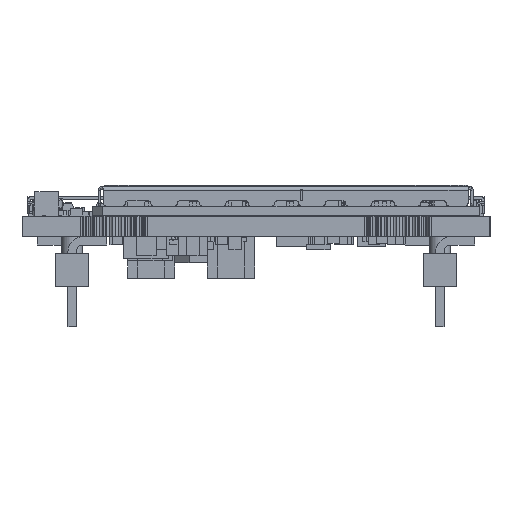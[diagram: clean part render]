
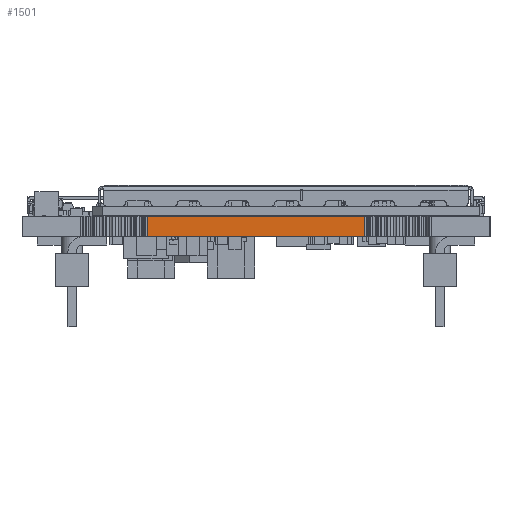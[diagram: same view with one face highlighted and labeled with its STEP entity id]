
A CAD part, left-side view. The second image highlights one B-rep face of the part: STEP entity #1501.
In plain terms, the highlighted planar face has unit normal (-1, 0, 0).
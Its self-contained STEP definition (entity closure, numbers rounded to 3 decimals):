
#1476 = VERTEX_POINT('',#1477);
#1477 = CARTESIAN_POINT('',(0.,9.525,1.551));
#1483 = EDGE_CURVE('',#1484,#1476,#1486,.T.);
#1484 = VERTEX_POINT('',#1485);
#1485 = CARTESIAN_POINT('',(0.,9.525,0.));
#1486 = LINE('',#1487,#1488);
#1487 = CARTESIAN_POINT('',(0.,9.525,0.));
#1488 = VECTOR('',#1489,1.);
#1489 = DIRECTION('',(0.,0.,1.));
#1501 = ADVANCED_FACE('',(#1502),#1527,.T.);
#1502 = FACE_BOUND('',#1503,.T.);
#1503 = EDGE_LOOP('',(#1504,#1505,#1513,#1521));
#1504 = ORIENTED_EDGE('',*,*,#1483,.T.);
#1505 = ORIENTED_EDGE('',*,*,#1506,.T.);
#1506 = EDGE_CURVE('',#1476,#1507,#1509,.T.);
#1507 = VERTEX_POINT('',#1508);
#1508 = CARTESIAN_POINT('',(0.,26.035,1.551));
#1509 = LINE('',#1510,#1511);
#1510 = CARTESIAN_POINT('',(0.,0.,1.551));
#1511 = VECTOR('',#1512,1.);
#1512 = DIRECTION('',(0.,1.,0.));
#1513 = ORIENTED_EDGE('',*,*,#1514,.F.);
#1514 = EDGE_CURVE('',#1515,#1507,#1517,.T.);
#1515 = VERTEX_POINT('',#1516);
#1516 = CARTESIAN_POINT('',(0.,26.035,0.));
#1517 = LINE('',#1518,#1519);
#1518 = CARTESIAN_POINT('',(0.,26.035,0.));
#1519 = VECTOR('',#1520,1.);
#1520 = DIRECTION('',(0.,0.,1.));
#1521 = ORIENTED_EDGE('',*,*,#1522,.F.);
#1522 = EDGE_CURVE('',#1484,#1515,#1523,.T.);
#1523 = LINE('',#1524,#1525);
#1524 = CARTESIAN_POINT('',(0.,0.,0.));
#1525 = VECTOR('',#1526,1.);
#1526 = DIRECTION('',(0.,1.,0.));
#1527 = PLANE('',#1528);
#1528 = AXIS2_PLACEMENT_3D('',#1529,#1530,#1531);
#1529 = CARTESIAN_POINT('',(0.,9.525,0.));
#1530 = DIRECTION('',(-1.,0.,0.));
#1531 = DIRECTION('',(0.,1.,0.));
